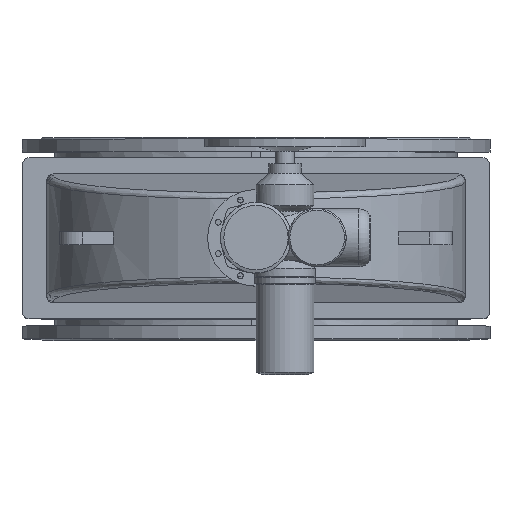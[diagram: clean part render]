
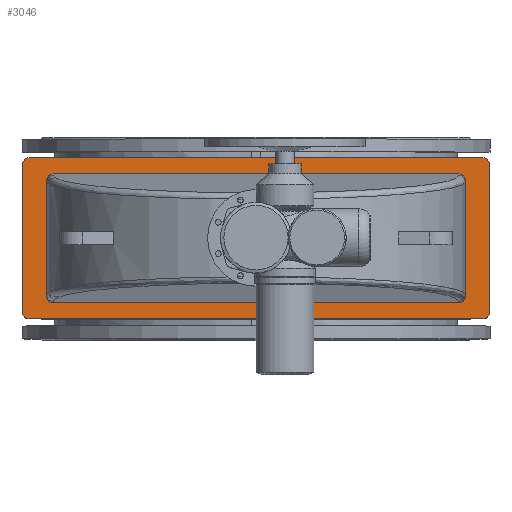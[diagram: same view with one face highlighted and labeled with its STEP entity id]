
A CAD part, top view. The second image highlights one B-rep face of the part: STEP entity #3046.
In plain terms, the highlighted planar face has unit normal (0, 0, 1).
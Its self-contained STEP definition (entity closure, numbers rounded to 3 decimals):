
#3046=ADVANCED_FACE('',(#10190,#10192),#10194,.T.);
#10190=FACE_BOUND('',#10191,.T.);
#10191=EDGE_LOOP('',(#13436,#13437,#13438,#13439,#13440,#13441,#13442,#13443));
#10192=FACE_BOUND('',#10193,.T.);
#10193=EDGE_LOOP('',(#13444,#13445,#13446,#13447,#13448,#13449,#13450,#13451));
#10194=PLANE('',#10195);
#10195=AXIS2_PLACEMENT_3D('',#10196,#10197,#10198);
#10196=CARTESIAN_POINT('',(0.,0.,1366.));
#10197=DIRECTION('',(0.,-0.,1.));
#10198=DIRECTION('',(0.,1.,0.));
#13436=ORIENTED_EDGE('',*,*,#14752,.F.);
#13437=ORIENTED_EDGE('',*,*,#14765,.T.);
#13438=ORIENTED_EDGE('',*,*,#14764,.F.);
#13439=ORIENTED_EDGE('',*,*,#14762,.T.);
#13440=ORIENTED_EDGE('',*,*,#14760,.F.);
#13441=ORIENTED_EDGE('',*,*,#14758,.T.);
#13442=ORIENTED_EDGE('',*,*,#14756,.F.);
#13443=ORIENTED_EDGE('',*,*,#14753,.T.);
#13444=ORIENTED_EDGE('',*,*,#14766,.F.);
#13445=ORIENTED_EDGE('',*,*,#14767,.F.);
#13446=ORIENTED_EDGE('',*,*,#14768,.F.);
#13447=ORIENTED_EDGE('',*,*,#14769,.F.);
#13448=ORIENTED_EDGE('',*,*,#14770,.F.);
#13449=ORIENTED_EDGE('',*,*,#14771,.F.);
#13450=ORIENTED_EDGE('',*,*,#14772,.F.);
#13451=ORIENTED_EDGE('',*,*,#14773,.F.);
#14752=EDGE_CURVE('',#16334,#16332,#16336,.F.);
#14753=EDGE_CURVE('',#16337,#16332,#16338,.T.);
#14756=EDGE_CURVE('',#16337,#16340,#16342,.F.);
#14758=EDGE_CURVE('',#16343,#16340,#16345,.T.);
#14760=EDGE_CURVE('',#16343,#16346,#16348,.F.);
#14762=EDGE_CURVE('',#16349,#16346,#16351,.T.);
#14764=EDGE_CURVE('',#16349,#16352,#16354,.F.);
#14765=EDGE_CURVE('',#16334,#16352,#16355,.T.);
#14766=EDGE_CURVE('',#16356,#16357,#16358,.F.);
#14767=EDGE_CURVE('',#16359,#16356,#16360,.T.);
#14768=EDGE_CURVE('',#16361,#16359,#16362,.T.);
#14769=EDGE_CURVE('',#16363,#16361,#16364,.T.);
#14770=EDGE_CURVE('',#16365,#16363,#16366,.F.);
#14771=EDGE_CURVE('',#16367,#16365,#16368,.T.);
#14772=EDGE_CURVE('',#16369,#16367,#16370,.T.);
#14773=EDGE_CURVE('',#16357,#16369,#16371,.T.);
#16332=VERTEX_POINT('',#21135);
#16334=VERTEX_POINT('',#21139);
#16336=CIRCLE('',#21143,20.);
#16337=VERTEX_POINT('',#21147);
#16338=LINE('',#21148,#21149);
#16340=VERTEX_POINT('',#21154);
#16342=CIRCLE('',#21158,20.);
#16343=VERTEX_POINT('',#21162);
#16345=LINE('',#21166,#21167);
#16346=VERTEX_POINT('',#21169);
#16348=CIRCLE('',#21173,20.);
#16349=VERTEX_POINT('',#21177);
#16351=LINE('',#21181,#21182);
#16352=VERTEX_POINT('',#21184);
#16354=CIRCLE('',#21188,20.);
#16355=LINE('',#21192,#21193);
#16356=VERTEX_POINT('',#21195);
#16357=VERTEX_POINT('',#21196);
#16358=(BOUNDED_CURVE()B_SPLINE_CURVE(3,
(#21197,#21198,#21199,#21200),
.UNSPECIFIED.,.F.,.F.)B_SPLINE_CURVE_WITH_KNOTS((4,4),
(0.,1.),
.UNSPECIFIED.)CURVE()GEOMETRIC_REPRESENTATION_ITEM()RATIONAL_B_SPLINE_CURVE((1.,
0.805,0.805,1.))REPRESENTATION_ITEM(''));
#16359=VERTEX_POINT('',#21201);
#16360=LINE('',#21202,#21203);
#16361=VERTEX_POINT('',#21205);
#16362=(BOUNDED_CURVE()B_SPLINE_CURVE(3,
(#21206,#21207,#21208,#21209),
.UNSPECIFIED.,.F.,.F.)B_SPLINE_CURVE_WITH_KNOTS((4,4),
(0.,1.),
.UNSPECIFIED.)CURVE()GEOMETRIC_REPRESENTATION_ITEM()RATIONAL_B_SPLINE_CURVE((1.,
0.805,0.805,1.))REPRESENTATION_ITEM(''));
#16363=VERTEX_POINT('',#21210);
#16364=LINE('',#21211,#21212);
#16365=VERTEX_POINT('',#21214);
#16366=(BOUNDED_CURVE()B_SPLINE_CURVE(3,
(#21215,#21216,#21217,#21218),
.UNSPECIFIED.,.F.,.F.)B_SPLINE_CURVE_WITH_KNOTS((4,4),
(0.,1.),
.UNSPECIFIED.)CURVE()GEOMETRIC_REPRESENTATION_ITEM()RATIONAL_B_SPLINE_CURVE((1.,
0.805,0.805,1.))REPRESENTATION_ITEM(''));
#16367=VERTEX_POINT('',#21219);
#16368=LINE('',#21220,#21221);
#16369=VERTEX_POINT('',#21223);
#16370=(BOUNDED_CURVE()B_SPLINE_CURVE(3,
(#21224,#21225,#21226,#21227),
.UNSPECIFIED.,.F.,.F.)B_SPLINE_CURVE_WITH_KNOTS((4,4),
(0.,1.),
.UNSPECIFIED.)CURVE()GEOMETRIC_REPRESENTATION_ITEM()RATIONAL_B_SPLINE_CURVE((1.,
0.805,0.805,1.))REPRESENTATION_ITEM(''));
#16371=LINE('',#21228,#21229);
#21135=CARTESIAN_POINT('',(-725.,-230.,1366.));
#21139=CARTESIAN_POINT('',(-705.,-250.,1366.));
#21143=AXIS2_PLACEMENT_3D('',#21144,#21145,#21146);
#21144=CARTESIAN_POINT('',(-705.,-230.,1366.));
#21145=DIRECTION('',(0.,-0.,1.));
#21146=DIRECTION('',(-1.,0.,0.));
#21147=CARTESIAN_POINT('',(-725.,230.,1366.));
#21148=CARTESIAN_POINT('',(-725.,230.,1366.));
#21149=VECTOR('',#21150,1.);
#21150=DIRECTION('',(0.,-1.,0.));
#21154=CARTESIAN_POINT('',(-705.,250.,1366.));
#21158=AXIS2_PLACEMENT_3D('',#21159,#21160,#21161);
#21159=CARTESIAN_POINT('',(-705.,230.,1366.));
#21160=DIRECTION('',(0.,-0.,1.));
#21161=DIRECTION('',(0.,1.,0.));
#21162=CARTESIAN_POINT('',(705.,250.,1366.));
#21166=CARTESIAN_POINT('',(705.,250.,1366.));
#21167=VECTOR('',#21168,1.);
#21168=DIRECTION('',(-1.,0.,0.));
#21169=CARTESIAN_POINT('',(725.,230.,1366.));
#21173=AXIS2_PLACEMENT_3D('',#21174,#21175,#21176);
#21174=CARTESIAN_POINT('',(705.,230.,1366.));
#21175=DIRECTION('',(0.,-0.,1.));
#21176=DIRECTION('',(1.,0.,0.));
#21177=CARTESIAN_POINT('',(725.,-230.,1366.));
#21181=CARTESIAN_POINT('',(725.,-230.,1366.));
#21182=VECTOR('',#21183,1.);
#21183=DIRECTION('',(0.,1.,0.));
#21184=CARTESIAN_POINT('',(705.,-250.,1366.));
#21188=AXIS2_PLACEMENT_3D('',#21189,#21190,#21191);
#21189=CARTESIAN_POINT('',(705.,-230.,1366.));
#21190=DIRECTION('',(0.,-0.,1.));
#21191=DIRECTION('',(0.,-1.,0.));
#21192=CARTESIAN_POINT('',(-705.,-250.,1366.));
#21193=VECTOR('',#21194,1.);
#21194=DIRECTION('',(1.,0.,0.));
#21195=CARTESIAN_POINT('',(630.,-200.,1366.));
#21196=CARTESIAN_POINT('',(650.,-179.924,1366.));
#21197=CARTESIAN_POINT('',(650.,-179.924,1366.));
#21198=CARTESIAN_POINT('',(650.,-191.684,1366.));
#21199=CARTESIAN_POINT('',(641.716,-200.,1366.));
#21200=CARTESIAN_POINT('',(630.,-200.,1366.));
#21201=CARTESIAN_POINT('',(-630.,-200.,1366.));
#21202=CARTESIAN_POINT('',(-630.,-200.,1366.));
#21203=VECTOR('',#21204,1.);
#21204=DIRECTION('',(1.,0.,0.));
#21205=CARTESIAN_POINT('',(-650.,-179.924,1366.));
#21206=CARTESIAN_POINT('',(-650.,-179.924,1366.));
#21207=CARTESIAN_POINT('',(-650.,-191.684,1366.));
#21208=CARTESIAN_POINT('',(-641.716,-200.,1366.));
#21209=CARTESIAN_POINT('',(-630.,-200.,1366.));
#21210=CARTESIAN_POINT('',(-650.,179.924,1366.));
#21211=CARTESIAN_POINT('',(-650.,179.924,1366.));
#21212=VECTOR('',#21213,1.);
#21213=DIRECTION('',(0.,-1.,0.));
#21214=CARTESIAN_POINT('',(-630.,200.,1366.));
#21215=CARTESIAN_POINT('',(-650.,179.924,1366.));
#21216=CARTESIAN_POINT('',(-650.,191.684,1366.));
#21217=CARTESIAN_POINT('',(-641.716,200.,1366.));
#21218=CARTESIAN_POINT('',(-630.,200.,1366.));
#21219=CARTESIAN_POINT('',(630.,200.,1366.));
#21220=CARTESIAN_POINT('',(630.,200.,1366.));
#21221=VECTOR('',#21222,1.);
#21222=DIRECTION('',(-1.,0.,0.));
#21223=CARTESIAN_POINT('',(650.,179.924,1366.));
#21224=CARTESIAN_POINT('',(650.,179.924,1366.));
#21225=CARTESIAN_POINT('',(650.,191.684,1366.));
#21226=CARTESIAN_POINT('',(641.716,200.,1366.));
#21227=CARTESIAN_POINT('',(630.,200.,1366.));
#21228=CARTESIAN_POINT('',(650.,-179.924,1366.));
#21229=VECTOR('',#21230,1.);
#21230=DIRECTION('',(0.,1.,0.));
